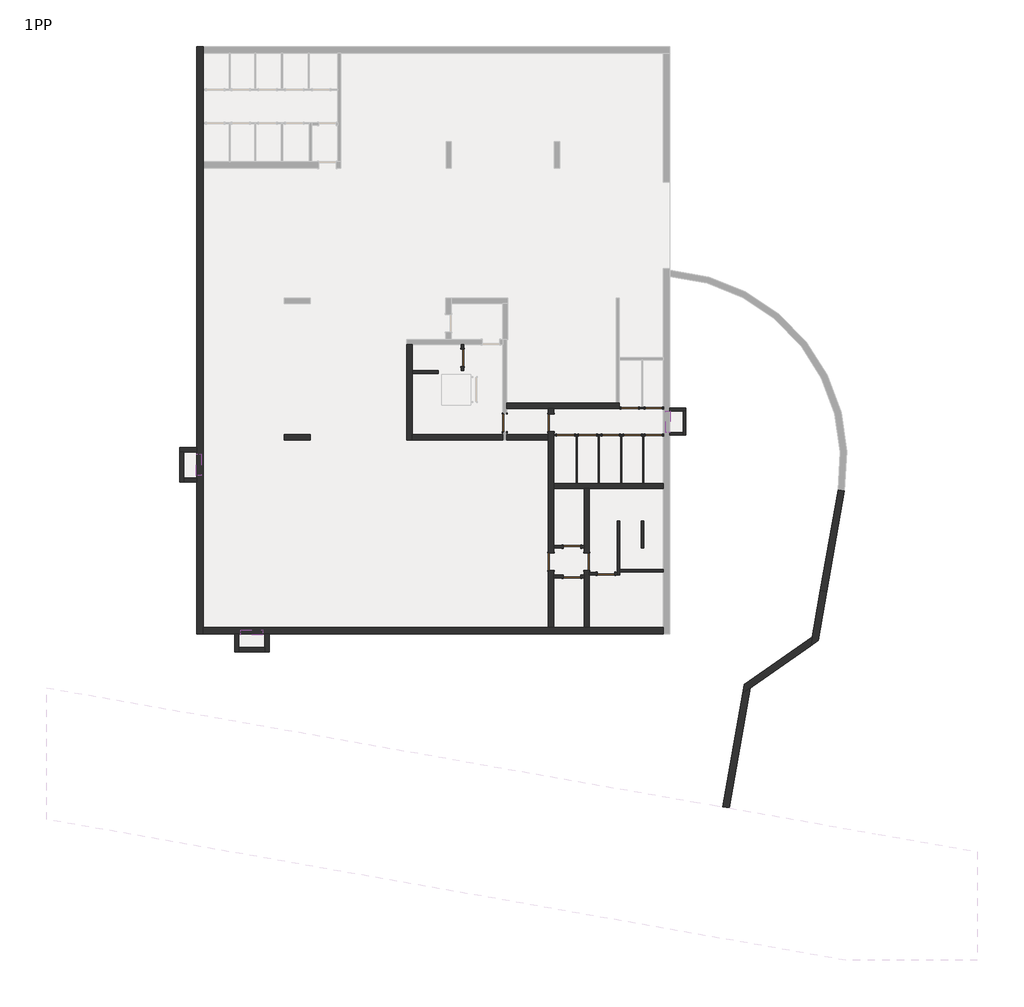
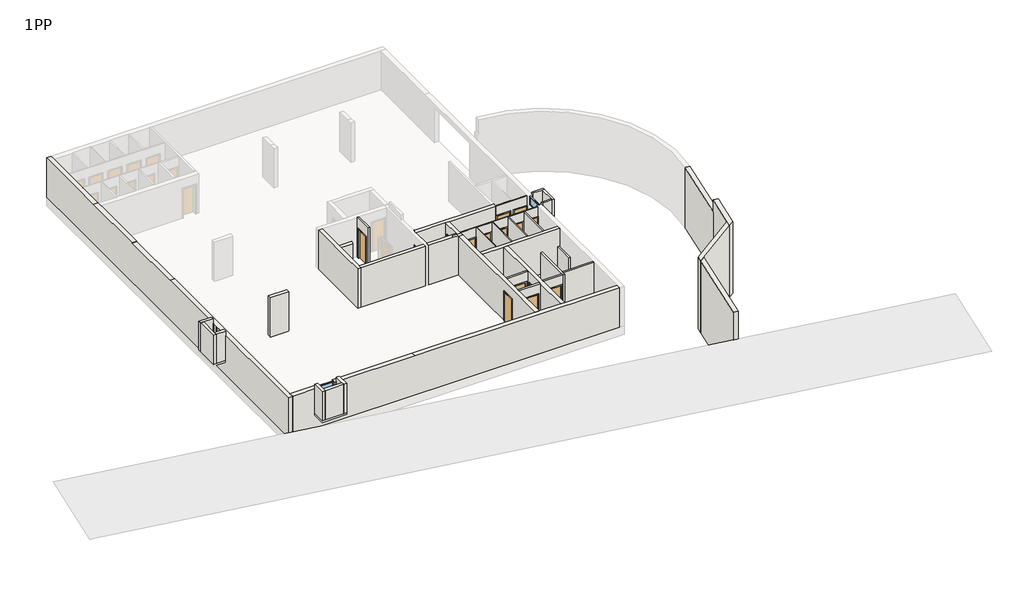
# One storey, part 1 of 2: 37 walls, 15 doors, 3 windows.
"""IFC4 building model written with IfcOpenShell, lengths in millimetres."""

from ifc_helpers import new_model, si_unit, frame, origin, place, context, project, spatial, polyline, outline, extrude, faceted_brep, transform, mapped, element, save
from components import sd_800x2000_0203fe2f, sd_800x2000_125e4961, sd_800x2000_3ea96131, sd_800x2000_59be3646, sd_800x2000_e6dfe1af, sd_800x2000_b5de6549, sd_800x2000_c4456082, window_043d948e, window_b9e24ea9

model = new_model("IFC4")

# Units and contexts
model_context = context("Model", 3, world=origin())
ifc_project = project(units=[si_unit("LENGTHUNIT", "METRE", prefix="MILLI")], contexts=[model_context])

# Site, building, storey
site = spatial("IfcSite", under=ifc_project)
building = spatial("IfcBuilding", under=site)
storey = spatial("IfcBuildingStorey", under=building, Name="1PP", Elevation=-3100.0)

# Doors
placement = place(None, origin())
sd_800x2000_shape = sd_800x2000_0203fe2f(model_context)
element("IfcDoor", 1, ObjectType="JednokridlePlne : SD 800x2000", at=placement, inside=storey, context=model_context, shape_type="MappedRepresentation", body=[
    mapped(sd_800x2000_shape, transform((5451.4088399, -7707.3709459, -3100.0), x_axis=(0.0, 0.9999999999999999, 0.0), y_axis=(-0.9999999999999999, 0.0, 0.0), z_axis=(0.0, 0.0, 1.0))),
])
sd_800x2000_2_shape = sd_800x2000_125e4961(model_context)
element("IfcDoor", 2, ObjectType="JednokridlePlne : SD 800x2000", at=placement, inside=storey, context=model_context, shape_type="MappedRepresentation", body=[
    mapped(sd_800x2000_2_shape, transform((4474.7387088, -1857.3709459, -3100.0), x_axis=(-1.0, 0.0, 0.0), y_axis=(0.0, -1.0, 0.0), z_axis=(0.0, 0.0, 1.0))),
])
element("IfcDoor", 3, ObjectType="JednokridlePlne : SD 800x2000", at=placement, inside=storey, context=model_context, shape_type="MappedRepresentation", body=[
    mapped(sd_800x2000_2_shape, transform((5492.9551797, -1857.3709459, -3100.0), x_axis=(-1.0, 0.0, 0.0), y_axis=(0.0, -1.0, 0.0), z_axis=(0.0, 0.0, 1.0))),
])
element("IfcDoor", 4, ObjectType="JednokridlePlne : SD 800x2000", at=placement, inside=storey, context=model_context, shape_type="MappedRepresentation", body=[
    mapped(sd_800x2000_2_shape, transform((6562.3417933, -1857.3709459, -3100.0), x_axis=(-1.0, 0.0, 0.0), y_axis=(0.0, -1.0, 0.0), z_axis=(0.0, 0.0, 1.0))),
])
element("IfcDoor", 5, ObjectType="JednokridlePlne : SD 800x2000", at=placement, inside=storey, context=model_context, shape_type="MappedRepresentation", body=[
    mapped(sd_800x2000_2_shape, transform((7572.2233412, -1857.3709459, -3100.0), x_axis=(-1.0, 0.0, 0.0), y_axis=(0.0, -1.0, 0.0), z_axis=(0.0, 0.0, 1.0))),
])
element("IfcDoor", 6, ObjectType="JednokridlePlne : SD 800x2000", at=placement, inside=storey, context=model_context, shape_type="MappedRepresentation", body=[
    mapped(sd_800x2000_2_shape, transform((8546.4088399, -1857.3709459, -3100.0), x_axis=(-1.0, 0.0, 0.0), y_axis=(0.0, -1.0, 0.0), z_axis=(0.0, 0.0, 1.0))),
])
sd_800x2000_3_shape = sd_800x2000_3ea96131(model_context)
element("IfcDoor", 7, ObjectType="JednokridlePlne : SD 800x2000", at=placement, inside=storey, context=model_context, shape_type="MappedRepresentation", body=[
    mapped(sd_800x2000_3_shape, transform((8546.4088399, -607.3709459, -3100.0), x_axis=(-0.9999999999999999, 0.0, 0.0), y_axis=(0.0, -0.9999999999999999, 0.0), z_axis=(0.0, 0.0, 1.0))),
])
element("IfcDoor", 8, ObjectType="JednokridlePlne : SD 800x2000", at=placement, inside=storey, context=model_context, shape_type="MappedRepresentation", body=[
    mapped(sd_800x2000_3_shape, transform((7438.078971, -607.3709459, -3100.0), x_axis=(-0.9999999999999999, 0.0, 0.0), y_axis=(0.0, -0.9999999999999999, 0.0), z_axis=(0.0, 0.0, 1.0))),
])
sd_800x2000_4_shape = sd_800x2000_59be3646(model_context)
element("IfcDoor", 9, ObjectType="JednokridlePlne : SD 800x2000", at=placement, inside=storey, context=model_context, shape_type="MappedRepresentation", body=[
    mapped(sd_800x2000_4_shape, transform((3801.4088399, -1292.8016415, -3100.0), x_axis=(0.0, 1.0, 0.0), y_axis=(-1.0, 0.0, 0.0), z_axis=(0.0, 0.0, 1.0))),
])
element("IfcDoor", 10, ObjectType="JednokridlePlne : SD 800x2000", at=placement, inside=storey, context=model_context, shape_type="MappedRepresentation", body=[
    mapped(sd_800x2000_4_shape, transform((3801.4088399, -7707.3709459, -3100.0), x_axis=(0.0, 1.0, 0.0), y_axis=(-1.0, 0.0, 0.0), z_axis=(0.0, 0.0, 1.0))),
])
sd_800x2000_5_shape = sd_800x2000_e6dfe1af(model_context)
element("IfcDoor", 11, ObjectType="JednokridlePlne : SD 800x2000", at=placement, inside=storey, context=model_context, shape_type="MappedRepresentation", body=[
    mapped(sd_800x2000_5_shape, transform((1662.8088399, -1292.8016415, -3100.0), x_axis=(0.0, 0.9999999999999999, 0.0), y_axis=(-0.9999999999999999, 0.0, 0.0), z_axis=(0.0, 0.0, 1.0))),
])
sd_800x2000_6_shape = sd_800x2000_b5de6549(model_context)
element("IfcDoor", 12, ObjectType="JednokridlePlne : SD 800x2000", at=placement, inside=storey, context=model_context, shape_type="MappedRepresentation", body=[
    mapped(sd_800x2000_6_shape, transform((4766.4088399, -8392.3709459, -3100.0), x_axis=(-1.0, 0.0, 0.0), y_axis=(0.0, -1.0, 0.0), z_axis=(0.0, 0.0, 1.0))),
])
element("IfcDoor", 13, ObjectType="JednokridlePlne : SD 800x2000", at=placement, inside=storey, context=model_context, shape_type="MappedRepresentation", body=[
    mapped(sd_800x2000_6_shape, transform((-297.1911601, 1717.6290541, -3100.0), x_axis=(0.0, -1.0, 0.0), y_axis=(1.0, 0.0, 0.0), z_axis=(0.0, 0.0, 1.0))),
])
sd_800x2000_7_shape = sd_800x2000_c4456082(model_context)
element("IfcDoor", 14, ObjectType="JednokridlePlne : SD 800x2000", at=placement, inside=storey, context=model_context, shape_type="MappedRepresentation", body=[
    mapped(sd_800x2000_7_shape, transform((4766.4088399, -7022.3709459, -3100.0), x_axis=(-1.0, 0.0, 0.0), y_axis=(0.0, -1.0, 0.0), z_axis=(0.0, 0.0, 1.0))),
])
element("IfcDoor", 15, ObjectType="JednokridlePlne : SD 800x2000", at=placement, inside=storey, context=model_context, shape_type="MappedRepresentation", body=[
    mapped(sd_800x2000_7_shape, transform((6336.4088399, -8272.3709459, -3100.0), x_axis=(1.0, 0.0, 0.0), y_axis=(0.0, 1.0, 0.0), z_axis=(0.0, 0.0, 1.0))),
])

# Walls
element("IfcWall", 16, ObjectType="Exterior - STB 200mm", at=placement, inside=storey, context=model_context, shape_type="Brep", body=[
    faceted_brep([(-10823.5911601, -11052.3709459, -2100.0), (-10823.5911601, -11872.3709459, -2100.0), (-10823.5911601, -11872.3709459, -91.0), (-10823.5911601, -11052.3709459, -91.0), (-10623.5911601, -11052.3709459, -2100.0), (-10623.5911601, -11052.3709459, -91.0), (-10623.5911601, -11672.3709459, -91.0), (-10623.5911601, -11872.3709459, -91.0), (-10623.5911601, -11872.3709459, -2100.0), (-10623.5911601, -11672.3709459, -2100.0)], [[[0, 1, 2, 3]], [[4, 5, 6, 7, 8, 9]], [[1, 0, 4, 9, 8]], [[2, 1, 8, 7]], [[0, 3, 5, 4]], [[3, 2, 7, 6, 5]]]),
])
element("IfcWall", 17, ObjectType="Exterior - STB 200mm", at=placement, inside=storey, context=model_context, shape_type="Brep", body=[
    faceted_brep([(-9223.5911601, -11872.3709459, -2100.0), (-9223.5911601, -11052.3709459, -2100.0), (-9223.5911601, -11052.3709459, -91.0), (-9223.5911601, -11872.3709459, -91.0), (-9423.5911601, -11872.3709459, -2100.0), (-9423.5911601, -11872.3709459, -91.0), (-9423.5911601, -11672.3709459, -91.0), (-9423.5911601, -11052.3709459, -91.0), (-9423.5911601, -11052.3709459, -2100.0), (-9423.5911601, -11672.3709459, -2100.0)], [[[0, 1, 2, 3]], [[4, 5, 6, 7, 8, 9]], [[1, 0, 4, 9, 8]], [[0, 3, 5, 4]], [[2, 1, 8, 7]], [[3, 2, 7, 6, 5]]]),
])
element("IfcWall", 18, ObjectType="Exterior - STB 200mm", at=placement, inside=storey, context=model_context, shape_type="SweptSolid", body=[
    extrude(outline(polyline([(-9423.5911601, -11872.3709459), (-10623.5911601, -11872.3709459), (-10623.5911601, -11672.3709459), (-9423.5911601, -11672.3709459), (-9423.5911601, -11872.3709459)])), frame((0.0, 0.0, -2100.0), z_axis=(0.0, 0.0, 1.0), x_axis=(1.0, 0.0, 0.0)), (0.0, 0.0, 1.0), 2009.0),
])
element("IfcWall", 19, ObjectType="Exterior - STB 200mm", at=placement, inside=storey, context=model_context, shape_type="Brep", body=[
    faceted_brep([(-12557.1911601, -2432.3709459, -2100.0), (-13363.5911601, -2432.3709459, -2100.0), (-13363.5911601, -2432.3709459, -91.0), (-12557.1911601, -2432.3709459, -91.0), (-12557.1911601, -2632.3709459, -2100.0), (-12557.1911601, -2632.3709459, -91.0), (-13163.5911601, -2632.3709459, -91.0), (-13363.5911601, -2632.3709459, -91.0), (-13363.5911601, -2632.3709459, -2100.0), (-13163.5911601, -2632.3709459, -2100.0)], [[[0, 1, 2, 3]], [[4, 5, 6, 7, 8, 9]], [[1, 0, 4, 9, 8]], [[2, 1, 8, 7]], [[0, 3, 5, 4]], [[3, 2, 7, 6, 5]]]),
])
element("IfcWall", 20, ObjectType="Exterior - STB 200mm", at=placement, inside=storey, context=model_context, shape_type="Brep", body=[
    faceted_brep([(-13363.5911601, -2632.3709459, -2100.0), (-13363.5911601, -4032.3709459, -2100.0), (-13363.5911601, -4032.3709459, -91.0), (-13363.5911601, -2632.3709459, -91.0), (-13163.5911601, -2632.3709459, -2100.0), (-13163.5911601, -2632.3709459, -91.0), (-13163.5911601, -3832.3709459, -91.0), (-13163.5911601, -4032.3709459, -91.0), (-13163.5911601, -4032.3709459, -2100.0), (-13163.5911601, -3832.3709459, -2100.0)], [[[0, 1, 2, 3]], [[4, 5, 6, 7, 8, 9]], [[1, 0, 4, 9, 8]], [[2, 1, 8, 7]], [[0, 3, 5, 4]], [[3, 2, 7, 6, 5]]]),
])
element("IfcWall", 21, ObjectType="Exterior - STB 200mm", at=placement, inside=storey, context=model_context, shape_type="SweptSolid", body=[
    extrude(outline(polyline([(-12557.1911601, -4032.3709459), (-13163.5911601, -4032.3709459), (-13163.5911601, -3832.3709459), (-12557.1911601, -3832.3709459), (-12557.1911601, -4032.3709459)])), frame((0.0, 0.0, -2100.0), z_axis=(0.0, 0.0, 1.0), x_axis=(1.0, 0.0, 0.0)), (0.0, 0.0, 1.0), 2009.0),
])
element("IfcWall", 22, ObjectType="Exterior - STB 300mm", at=placement, inside=storey, context=model_context, shape_type="Brep", body=[
    faceted_brep([(-12257.1911601, -11052.3709459, -3100.0), (-12257.1911601, -10752.3709459, -3100.0), (-12257.1911601, 10487.6290541, -3100.0), (-12257.1911601, 10787.6290541, -3100.0), (-12257.1911601, 12542.6290541, -3100.0), (-12257.1911601, 12592.6290541, -3100.0), (-12257.1911601, 15807.6290541, -3100.0), (-12257.1911601, 16107.6290541, -3100.0), (-12257.1911601, 16107.6290541, -409.0), (-12257.1911601, 16107.6290541, -400.0), (-12257.1911601, 10867.6290541, -400.0), (-12257.1911601, 10787.6290541, -400.0), (-12257.1911601, 10487.6290541, -400.0), (-12257.1911601, 6467.6290541, -400.0), (-12257.1911601, 6467.6290541, -409.0), (-12257.1911601, 2217.6290541, -409.0), (-12257.1911601, 2217.6290541, -400.0), (-12257.1911601, -2132.3709459, -400.0), (-12257.1911601, -10752.3709459, -400.0), (-12257.1911601, -11052.3709459, -400.0), (-12257.1911601, -3732.3709459, -1409.0), (-12257.1911601, -3732.3709459, -409.0), (-12257.1911601, -2732.3709459, -409.0), (-12257.1911601, -2732.3709459, -1409.0), (-12557.1911601, 16107.6290541, -3100.0), (-12557.1911601, -11052.3709459, -3100.0), (-12557.1911601, -11052.3709459, -400.0), (-12557.1911601, -2132.3709459, -400.0), (-12557.1911601, 2217.6290541, -400.0), (-12557.1911601, 2217.6290541, -409.0), (-12557.1911601, 6467.6290541, -409.0), (-12557.1911601, 6467.6290541, -400.0), (-12557.1911601, 10867.6290541, -400.0), (-12557.1911601, 16107.6290541, -400.0), (-12557.1911601, -3732.3709459, -409.0), (-12557.1911601, -3732.3709459, -1409.0), (-12557.1911601, -2732.3709459, -1409.0), (-12557.1911601, -2732.3709459, -409.0)], [[[0, 1, 2, 3, 4, 5, 6, 7, 8, 9, 10, 11, 12, 13, 14, 15, 16, 17, 18, 19], [20, 21, 22, 23]], [[24, 25, 26, 27, 28, 29, 30, 31, 32, 33], [34, 35, 36, 37]], [[7, 6, 5, 4, 3, 2, 1, 0, 25, 24]], [[9, 8, 7, 24, 33]], [[0, 19, 26, 25]], [[26, 19, 18, 17, 27]], [[9, 33, 32, 10]], [[13, 12, 11, 10, 32, 31]], [[17, 16, 28, 27]], [[21, 20, 35, 34]], [[22, 21, 34, 37]], [[23, 22, 37, 36]], [[20, 23, 36, 35]], [[29, 15, 14, 30]], [[30, 14, 13, 31]], [[15, 29, 28, 16]]]),
])
element("IfcWall", 23, ObjectType="Exterior - STB 300mm", at=placement, inside=storey, context=model_context, shape_type="Brep", body=[
    faceted_brep([(8982.8088399, -10752.3709459, -3100.0), (5576.4088399, -10752.3709459, -3100.0), (5326.4088399, -10752.3709459, -3100.0), (3926.4088399, -10752.3709459, -3100.0), (3676.4088399, -10752.3709459, -3100.0), (-12257.1911601, -10752.3709459, -3100.0), (-12257.1911601, -10752.3709459, -400.0), (-10523.5911601, -10752.3709459, -400.0), (-10523.5911601, -10752.3709459, -1400.0), (-9523.5911601, -10752.3709459, -1400.0), (-9523.5911601, -10752.3709459, -400.0), (-4337.1962165, -10752.3709459, -400.0), (3676.4088399, -10752.3709459, -400.0), (3926.4088399, -10752.3709459, -400.0), (5326.4088399, -10752.3709459, -400.0), (5576.4088399, -10752.3709459, -400.0), (8982.8088399, -10752.3709459, -400.0), (-12257.1911601, -11052.3709459, -3100.0), (8982.8088399, -11052.3709459, -3100.0), (8982.8088399, -11052.3709459, -400.0), (-4337.1962165, -11052.3709459, -400.0), (-9523.5911601, -11052.3709459, -400.0), (-9523.5911601, -11052.3709459, -1400.0), (-10523.5911601, -11052.3709459, -1400.0), (-10523.5911601, -11052.3709459, -400.0), (-12257.1911601, -11052.3709459, -400.0)], [[[0, 1, 2, 3, 4, 5, 6, 7, 8, 9, 10, 11, 12, 13, 14, 15, 16]], [[17, 18, 19, 20, 21, 22, 23, 24, 25]], [[5, 4, 3, 2, 1, 0, 18, 17]], [[0, 16, 19, 18]], [[6, 5, 17, 25]], [[6, 25, 24, 7]], [[20, 11, 10, 21]], [[16, 15, 14, 13, 12, 11, 20, 19]], [[9, 22, 21, 10]], [[23, 8, 7, 24]], [[22, 9, 8, 23]]]),
])
element("IfcWall", 24, ObjectType="Exterior - STB 300mm", at=placement, inside=storey, context=model_context, shape_type="Brep", body=[
    faceted_brep([(17064.3928143, -4387.7782943, -3100.0), (16245.3632549, -9032.7257446, -3100.0), (16245.3632549, -9032.7257446, 1000.0), (16262.7280726, -8934.2449693, 1000.0), (17064.3928143, -4387.7782943, 1000.0), (17360.0752435, -4438.5110541, -3100.0), (17360.0752435, -4438.5110541, 1000.0), (16558.1703985, -8986.3394226, 1000.0), (16540.8055808, -9084.8201979, 1000.0), (16540.8055808, -9084.8201979, -3100.0)], [[[0, 1, 2, 3, 4]], [[5, 6, 7, 8, 9]], [[1, 0, 5, 9]], [[4, 3, 2, 8, 7, 6]], [[0, 4, 6, 5]], [[1, 9, 8, 2]]]),
])
element("IfcWall", 25, ObjectType="Exterior - STB 300mm", at=placement, inside=storey, context=model_context, shape_type="Brep", body=[
    faceted_brep([(12664.6339226, -13791.370603, -3100.0), (13012.1707018, -13548.0227304, -3100.0), (15792.4649355, -11601.2397495, -3100.0), (15792.4649355, -11601.2397495, 1800.0), (13012.1707018, -13548.0227304, 1800.0), (12664.6339226, -13791.370603, 1800.0), (12738.306605, -13373.5520588, -3100.0), (12738.306605, -13373.5520588, 1800.0), (15866.1376178, -11183.4212053, 1800.0), (15866.1376178, -11183.4212053, -3100.0)], [[[0, 1, 2, 3, 4, 5]], [[6, 7, 8, 9]], [[2, 1, 0, 6, 9]], [[5, 4, 3, 8, 7]], [[0, 5, 7, 6]], [[3, 2, 9, 8]]]),
])
element("IfcWall", 26, ObjectType="Exterior - STB 300mm", at=placement, inside=storey, context=model_context, shape_type="SweptSolid", body=[
    extrude(outline(polyline([(13012.1707018, -13548.0227304), (12034.293416, -19093.8404034), (11738.8510901, -19041.7459501), (12664.6339226, -13791.370603), (13012.1707018, -13548.0227304)])), frame((0.0, 0.0, -3100.0), z_axis=(0.0, 0.0, 1.0), x_axis=(1.0, 0.0, 0.0)), (0.0, 0.0, 1.0), 4900.0),
])
element("IfcWall", 27, ObjectType="Exterior - STB 300mm", at=placement, inside=storey, context=model_context, shape_type="Brep", body=[
    faceted_brep([(16245.3632549, -9032.7257446, 1000.0), (16245.3632549, -9032.7257446, -3100.0), (15866.1376178, -11183.4212053, -3100.0), (15792.4649355, -11601.2397495, -3100.0), (15792.4649355, -11601.2397495, 1800.0), (15866.1376178, -11183.4212053, 1800.0), (16227.9984371, -9131.2065199, 1800.0), (16262.7280726, -8934.2449693, 1800.0), (16262.7280726, -8934.2449693, 1000.0), (16540.8055808, -9084.8201979, -3100.0), (16540.8055808, -9084.8201979, 1000.0), (16558.1703985, -8986.3394226, 1000.0), (16558.1703985, -8986.3394226, 1800.0), (16140.0017147, -11357.8918769, 1800.0), (16140.0017147, -11357.8918769, -3100.0)], [[[0, 1, 2, 3, 4, 5, 6, 7, 8]], [[9, 10, 11, 12, 13, 14]], [[3, 2, 1, 9, 14]], [[7, 6, 5, 4, 13, 12]], [[4, 3, 14, 13]], [[0, 10, 9, 1]], [[8, 11, 10, 0]], [[8, 7, 12, 11]]]),
])
element("IfcWall", 28, ObjectType="Exterior - STB120mm", at=placement, inside=storey, context=model_context, shape_type="Brep", body=[
    faceted_brep([(9282.8088399, -732.3709482, -2100.0), (9916.4088399, -732.3709459, -2100.0), (10036.4088399, -732.3709455, -2100.0), (10036.4088399, -732.3709455, -270.0), (9916.4088399, -732.3709459, -270.0), (9362.8037835, -732.370948, -270.0), (9282.8088399, -732.3709482, -270.0), (9282.8088399, -732.3709482, -400.0), (9282.8088399, -732.3709482, -1000.0), (9282.8088399, -612.3709482, -2100.0), (9282.8088399, -612.3709482, -270.0), (9362.8037835, -612.370948, -270.0), (10036.4088399, -612.3709455, -270.0), (10036.4088399, -612.3709455, -2100.0)], [[[0, 1, 2, 3, 4, 5, 6, 7, 8]], [[9, 10, 11, 12, 13]], [[2, 1, 0, 9, 13]], [[3, 2, 13, 12]], [[0, 8, 7, 6, 10, 9]], [[6, 5, 11, 10]], [[5, 4, 3, 12, 11]]]),
])
element("IfcWall", 29, ObjectType="Exterior - STB120mm", at=placement, inside=storey, context=model_context, shape_type="Brep", body=[
    faceted_brep([(9916.4088399, -732.3709459, -2100.0), (9916.4088399, -1732.3709459, -2100.0), (9916.4088399, -1852.3709459, -2100.0), (9916.4088399, -1852.3709459, -270.0), (9916.4088399, -1732.3709459, -270.0), (9916.4088399, -732.3709459, -270.0), (10036.4088399, -732.3709455, -2100.0), (10036.4088399, -732.3709455, -270.0), (10036.4088399, -1852.3709459, -270.0), (10036.4088399, -1852.3709459, -2100.0)], [[[0, 1, 2, 3, 4, 5]], [[6, 7, 8, 9]], [[2, 1, 0, 6, 9]], [[3, 2, 9, 8]], [[0, 5, 7, 6]], [[5, 4, 3, 8, 7]]]),
])
element("IfcWall", 30, ObjectType="Exterior - STB120mm", at=placement, inside=storey, context=model_context, shape_type="Brep", body=[
    faceted_brep([(9916.4088399, -1732.3709459, -2100.0), (9282.8088399, -1732.3709459, -2100.0), (9282.8088399, -1732.3709459, -1000.0), (9282.8088399, -1732.3709459, -400.0), (9282.8088399, -1732.3709459, -270.0), (9362.8037835, -1732.3709459, -270.0), (9916.4088399, -1732.3709459, -270.0), (9916.4088399, -1852.3709459, -2100.0), (9916.4088399, -1852.3709459, -270.0), (9362.8037835, -1852.3709459, -270.0), (9282.8088399, -1852.3709459, -270.0), (9282.8088399, -1852.3709459, -2100.0)], [[[0, 1, 2, 3, 4, 5, 6]], [[7, 8, 9, 10, 11]], [[1, 0, 7, 11]], [[0, 6, 8, 7]], [[4, 3, 2, 1, 11, 10]], [[5, 4, 10, 9]], [[6, 5, 9, 8]]]),
])
element("IfcWall", 31, ObjectType="Interior - 100mm", at=placement, inside=storey, context=model_context, shape_type="SweptSolid", body=[
    extrude(outline(polyline([(7976.4088399, -7062.3709459), (7976.4088399, -5832.3709459), (8076.4088399, -5832.3709459), (8076.4088399, -7062.3709459), (7976.4088399, -7062.3709459)])), frame((0.0, 0.0, -3100.0), z_axis=(0.0, 0.0, 1.0), x_axis=(1.0, 0.0, 0.0)), (0.0, 0.0, 1.0), 2700.0),
])
element("IfcWall", 32, ObjectType="Interior - 120mm", at=placement, inside=storey, context=model_context, shape_type="SweptSolid", body=[
    extrude(outline(polyline([(-3100.0, 3926.4088399), (-3100.0, 4366.4088399), (-1100.0, 4366.4088399), (-1100.0, 5166.4088399), (-3100.0, 5166.4088399), (-3100.0, 5326.4088399), (-400.0, 5326.4088399), (-400.0, 3926.4088399), (-3100.0, 3926.4088399)])), frame((0.0, -8452.3709459, 0.0), z_axis=(0.0, 1.0, 0.0), x_axis=(0.0, 0.0, 1.0)), (0.0, 0.0, 1.0), 120.0),
])
element("IfcWall", 33, ObjectType="Interior - 120mm", at=placement, inside=storey, context=model_context, shape_type="SweptSolid", body=[
    extrude(outline(polyline([(-3100.0, 3926.4088399), (-3100.0, 4366.4088399), (-1100.0, 4366.4088399), (-1100.0, 5166.4088399), (-3100.0, 5166.4088399), (-3100.0, 5326.4088399), (-400.0, 5326.4088399), (-400.0, 3926.4088399), (-3100.0, 3926.4088399)])), frame((0.0, -7082.3709459, 0.0), z_axis=(0.0, 1.0, 0.0), x_axis=(0.0, 0.0, 1.0)), (0.0, 0.0, 1.0), 120.0),
])
element("IfcWall", 34, ObjectType="Interior - 120mm", at=placement, inside=storey, context=model_context, shape_type="SweptSolid", body=[
    extrude(outline(polyline([(6976.4088399, -8062.3709459), (8982.8088399, -8062.3709459), (8982.8088399, -8182.3709459), (6976.4088399, -8182.3709459), (6976.4088399, -8062.3709459)])), frame((0.0, 0.0, -3100.0), z_axis=(0.0, 0.0, 1.0), x_axis=(1.0, 0.0, 0.0)), (0.0, 0.0, 1.0), 2700.0),
])
element("IfcWall", 35, ObjectType="Interior - 120mm", at=placement, inside=storey, context=model_context, shape_type="Brep", body=[
    faceted_brep([(6976.4088399, -8332.3709459, -3100.0), (6976.4088399, -8182.3709459, -3100.0), (6976.4088399, -8062.3709459, -3100.0), (6976.4088399, -5832.3709459, -3100.0), (6976.4088399, -5832.3709459, -400.0), (6976.4088399, -8052.3709459, -400.0), (6976.4088399, -8062.3709459, -400.0), (6976.4088399, -8182.3709459, -400.0), (6976.4088399, -8332.3709459, -400.0), (6856.4088399, -8332.3709459, -3100.0), (6856.4088399, -8332.3709459, -400.0), (6856.4088399, -8212.3709459, -400.0), (6856.4088399, -5832.3709459, -400.0), (6856.4088399, -5832.3709459, -3100.0), (6856.4088399, -8212.3709459, -3100.0)], [[[0, 1, 2, 3, 4, 5, 6, 7, 8]], [[9, 10, 11, 12, 13, 14]], [[3, 2, 1, 0, 9, 14, 13]], [[4, 3, 13, 12]], [[0, 8, 10, 9]], [[8, 7, 6, 5, 4, 12, 11, 10]]]),
])
element("IfcWall", 36, ObjectType="Interior - 120mm", at=placement, inside=storey, context=model_context, shape_type="SweptSolid", body=[
    extrude(outline(polyline([(-1100.0, 6736.4088399), (-3100.0, 6736.4088399), (-3100.0, 6856.4088399), (-400.0, 6856.4088399), (-400.0, 5576.4088399), (-3100.0, 5576.4088399), (-3100.0, 5936.4088399), (-1100.0, 5936.4088399), (-1100.0, 6736.4088399)])), frame((0.0, -8332.3709459, 0.0), z_axis=(0.0, 1.0, 0.0), x_axis=(0.0, 0.0, 1.0)), (0.0, 0.0, 1.0), 120.0),
])
element("IfcWall", 37, ObjectType="Interior - 120mm", at=placement, inside=storey, context=model_context, shape_type="SweptSolid", body=[
    extrude(outline(polyline([(1117.6290541, -955.5709175), (1117.6290541, -3100.0), (997.6290541, -3100.0), (997.6290541, -1031.2928427), (1117.6290541, -955.5709175)])), frame((-2607.1911601, 0.0, 0.0), z_axis=(1.0, 0.0, 0.0), x_axis=(0.0, 1.0, 0.0)), (0.0, 0.0, 1.0), 1199.9949436),
])
element("IfcWall", 38, ObjectType="Interior - 120mm", at=placement, inside=storey, context=model_context, shape_type="SweptSolid", body=[
    extrude(outline(polyline([(1317.6290541, -1100.0), (1317.6290541, -3100.0), (1117.6290541, -3100.0), (1117.6290541, -400.0), (2317.6290541, -400.0), (2317.6290541, -3100.0), (2117.6290541, -3100.0), (2117.6290541, -1100.0), (1317.6290541, -1100.0)])), frame((-357.1911601, 0.0, 0.0), z_axis=(1.0, 0.0, 0.0), x_axis=(0.0, 1.0, 0.0)), (0.0, 0.0, 1.0), 120.0),
])
element("IfcWall", 39, ObjectType="Interior - 250mm", at=placement, inside=storey, context=model_context, shape_type="Brep", body=[
    faceted_brep([(-2607.1911601, -2082.3709459, -3100.0), (-2607.1911601, -1832.3709459, -3100.0), (-2607.1911601, 997.6290541, -3100.0), (-2607.1911601, 1117.6290541, -3100.0), (-2607.1911601, 2317.6290541, -3100.0), (-2607.1911601, 2317.6290541, -400.0), (-2607.1911601, -1832.3709459, -400.0), (-2607.1911601, -2082.3709459, -400.0), (-2857.1911601, -2082.3709459, -3100.0), (-2857.1911601, -2082.3709459, -400.0), (-2857.1911601, -732.3709459, -400.0), (-2857.1911601, 267.6290541, -400.0), (-2857.1911601, 2317.6290541, -400.0), (-2857.1911601, 2317.6290541, -3100.0)], [[[0, 1, 2, 3, 4, 5, 6, 7]], [[8, 9, 10, 11, 12, 13]], [[4, 3, 2, 1, 0, 8, 13]], [[0, 7, 9, 8]], [[5, 4, 13, 12]], [[7, 6, 5, 12, 11, 10, 9]]]),
])
element("IfcWall", 40, ObjectType="Interior - 250mm", at=placement, inside=storey, context=model_context, shape_type="Brep", body=[
    faceted_brep([(1562.8088399, -1832.3709459, -3100.0), (-2607.1911601, -1832.3709459, -3100.0), (-2607.1911601, -1832.3709459, -400.0), (362.8037835, -1832.3709459, -400.0), (1562.8088399, -1832.3709459, -400.0), (1562.8088399, -2082.3709459, -3100.0), (1562.8088399, -2082.3709459, -400.0), (592.8037835, -2082.3709459, -400.0), (-886.4381272, -2082.3709459, -400.0), (-2607.1911601, -2082.3709459, -400.0), (-2607.1911601, -2082.3709459, -3100.0)], [[[0, 1, 2, 3, 4]], [[5, 6, 7, 8, 9, 10]], [[1, 0, 5, 10]], [[2, 1, 10, 9]], [[0, 4, 6, 5]], [[4, 3, 2, 9, 8, 7, 6]]]),
])
element("IfcWall", 41, ObjectType="Interior - 250mm", at=placement, inside=storey, context=model_context, shape_type="Brep", body=[
    faceted_brep([(1762.8088399, -632.3709459, -3100.0), (3676.4088399, -632.3709459, -3100.0), (3926.4088399, -632.3709459, -3100.0), (6946.4088399, -632.3709459, -3100.0), (6946.4088399, -632.3709459, -400.0), (3926.4088399, -632.3709459, -400.0), (3676.4088399, -632.3709459, -400.0), (1762.8088399, -632.3709459, -400.0), (1762.8088399, -382.3709459, -3100.0), (1762.8088399, -382.3709459, -400.0), (2012.8037835, -382.3709459, -400.0), (6826.4088399, -382.3709459, -400.0), (6946.4088399, -382.3709459, -400.0), (6946.4088399, -382.3709459, -3100.0), (6826.4088399, -382.3709459, -3100.0), (6946.4088399, -582.3709459, -3100.0), (6946.4088399, -582.3709459, -400.0)], [[[0, 1, 2, 3, 4, 5, 6, 7]], [[8, 9, 10, 11, 12, 13, 14]], [[3, 2, 1, 0, 8, 14, 13, 15]], [[4, 3, 15, 13, 12, 16]], [[0, 7, 9, 8]], [[7, 6, 5, 4, 16, 12, 11, 10, 9]]]),
])
element("IfcWall", 42, ObjectType="Interior - 250mm", at=placement, inside=storey, context=model_context, shape_type="Brep", body=[
    faceted_brep([(3676.4088399, -1692.8016415, -3100.0), (3676.4088399, -1832.3709459, -3100.0), (3676.4088399, -2082.3709459, -3100.0), (3676.4088399, -7307.3709459, -3100.0), (3676.4088399, -7307.3709459, -1100.0), (3676.4088399, -8107.3709459, -1100.0), (3676.4088399, -8107.3709459, -3100.0), (3676.4088399, -10752.3709459, -3100.0), (3676.4088399, -10752.3709459, -400.0), (3676.4088399, -2132.3709459, -400.0), (3676.4088399, -2082.3709459, -400.0), (3676.4088399, -1932.3709459, -400.0), (3676.4088399, -1832.3709459, -400.0), (3676.4088399, -632.3709459, -400.0), (3676.4088399, -632.3709459, -3100.0), (3676.4088399, -892.8016415, -3100.0), (3676.4088399, -892.8016415, -1100.0), (3676.4088399, -1692.8016415, -1100.0), (3926.4088399, -7307.3709459, -1100.0), (3926.4088399, -7307.3709459, -3100.0), (3926.4088399, -7082.3709459, -3100.0), (3926.4088399, -6962.3709459, -3100.0), (3926.4088399, -4332.3709459, -3100.0), (3926.4088399, -4082.3709459, -3100.0), (3926.4088399, -1882.3709459, -3100.0), (3926.4088399, -1832.3709459, -3100.0), (3926.4088399, -1692.8016415, -3100.0), (3926.4088399, -1692.8016415, -1100.0), (3926.4088399, -892.8016415, -1100.0), (3926.4088399, -892.8016415, -3100.0), (3926.4088399, -632.3709459, -3100.0), (3926.4088399, -632.3709459, -400.0), (3926.4088399, -1832.3709459, -400.0), (3926.4088399, -1882.3709459, -400.0), (3926.4088399, -1932.3709459, -400.0), (3926.4088399, -2132.3709459, -400.0), (3926.4088399, -4082.3709459, -400.0), (3926.4088399, -4332.3709459, -400.0), (3926.4088399, -6962.3709459, -400.0), (3926.4088399, -7082.3709459, -400.0), (3926.4088399, -8332.3709459, -400.0), (3926.4088399, -8452.3709459, -400.0), (3926.4088399, -10752.3709459, -400.0), (3926.4088399, -10752.3709459, -3100.0), (3926.4088399, -8452.3709459, -3100.0), (3926.4088399, -8332.3709459, -3100.0), (3926.4088399, -8107.3709459, -3100.0), (3926.4088399, -8107.3709459, -1100.0)], [[[0, 1, 2, 3, 4, 5, 6, 7, 8, 9, 10, 11, 12, 13, 14, 15, 16, 17]], [[18, 19, 20, 21, 22, 23, 24, 25, 26, 27, 28, 29, 30, 31, 32, 33, 34, 35, 36, 37, 38, 39, 40, 41, 42, 43, 44, 45, 46, 47]], [[30, 29, 15, 14]], [[26, 25, 24, 23, 22, 21, 20, 19, 3, 2, 1, 0]], [[46, 45, 44, 43, 7, 6]], [[8, 7, 43, 42]], [[14, 13, 31, 30]], [[11, 10, 9, 35, 34]], [[13, 12, 11, 34, 33, 32, 31]], [[9, 8, 42, 41, 40, 39, 38, 37, 36, 35]], [[16, 15, 29, 28]], [[17, 16, 28, 27]], [[0, 17, 27, 26]], [[4, 3, 19, 18]], [[5, 4, 18, 47]], [[6, 5, 47, 46]]]),
])
element("IfcWall", 43, ObjectType="Interior - 250mm", at=placement, inside=storey, context=model_context, shape_type="Brep", body=[
    faceted_brep([(3926.4088399, -4332.3709459, -3100.0), (5326.4088399, -4332.3709459, -3100.0), (5576.4088399, -4332.3709459, -3100.0), (8982.8088399, -4332.3709459, -3100.0), (8982.8088399, -4332.3709459, -400.0), (5576.4088399, -4332.3709459, -400.0), (5326.4088399, -4332.3709459, -400.0), (3926.4088399, -4332.3709459, -400.0), (3926.4088399, -4082.3709459, -3100.0), (3926.4088399, -4082.3709459, -400.0), (4956.4088399, -4082.3709459, -400.0), (5006.4088399, -4082.3709459, -400.0), (5986.4088399, -4082.3709459, -400.0), (6036.4088399, -4082.3709459, -400.0), (7016.4088399, -4082.3709459, -400.0), (7066.4088399, -4082.3709459, -400.0), (8046.4088399, -4082.3709459, -400.0), (8096.4088399, -4082.3709459, -400.0), (8982.8088399, -4082.3709459, -400.0), (8982.8088399, -4082.3709459, -3100.0), (8096.4088399, -4082.3709459, -3100.0), (8046.4088399, -4082.3709459, -3100.0), (7066.4088399, -4082.3709459, -3100.0), (7016.4088399, -4082.3709459, -3100.0), (6036.4088399, -4082.3709459, -3100.0), (5986.4088399, -4082.3709459, -3100.0), (5006.4088399, -4082.3709459, -3100.0), (4956.4088399, -4082.3709459, -3100.0)], [[[0, 1, 2, 3, 4, 5, 6, 7]], [[8, 9, 10, 11, 12, 13, 14, 15, 16, 17, 18, 19, 20, 21, 22, 23, 24, 25, 26, 27]], [[3, 2, 1, 0, 8, 27, 26, 25, 24, 23, 22, 21, 20, 19]], [[4, 3, 19, 18]], [[0, 7, 9, 8]], [[7, 6, 5, 4, 18, 17, 16, 15, 14, 13, 12, 11, 10, 9]]]),
])
element("IfcWall", 44, ObjectType="Interior - 250mm", at=placement, inside=storey, context=model_context, shape_type="Brep", body=[
    faceted_brep([(5326.4088399, -4332.3709459, -3100.0), (5326.4088399, -6962.3709459, -3100.0), (5326.4088399, -7082.3709459, -3100.0), (5326.4088399, -7307.3709459, -3100.0), (5326.4088399, -7307.3709459, -1100.0), (5326.4088399, -8107.3709459, -1100.0), (5326.4088399, -8107.3709459, -3100.0), (5326.4088399, -8332.3709459, -3100.0), (5326.4088399, -8452.3709459, -3100.0), (5326.4088399, -10752.3709459, -3100.0), (5326.4088399, -10752.3709459, -400.0), (5326.4088399, -8452.3709459, -400.0), (5326.4088399, -8332.3709459, -400.0), (5326.4088399, -7082.3709459, -400.0), (5326.4088399, -6962.3709459, -400.0), (5326.4088399, -4332.3709459, -400.0), (5576.4088399, -7307.3709459, -1100.0), (5576.4088399, -7307.3709459, -3100.0), (5576.4088399, -4332.3709459, -3100.0), (5576.4088399, -4332.3709459, -400.0), (5576.4088399, -8212.3709459, -400.0), (5576.4088399, -8332.3709459, -400.0), (5576.4088399, -10752.3709459, -400.0), (5576.4088399, -10752.3709459, -3100.0), (5576.4088399, -8332.3709459, -3100.0), (5576.4088399, -8212.3709459, -3100.0), (5576.4088399, -8107.3709459, -3100.0), (5576.4088399, -8107.3709459, -1100.0)], [[[0, 1, 2, 3, 4, 5, 6, 7, 8, 9, 10, 11, 12, 13, 14, 15]], [[16, 17, 18, 19, 20, 21, 22, 23, 24, 25, 26, 27]], [[18, 17, 3, 2, 1, 0]], [[26, 25, 24, 23, 9, 8, 7, 6]], [[10, 9, 23, 22]], [[0, 15, 19, 18]], [[15, 14, 13, 12, 11, 10, 22, 21, 20, 19]], [[4, 3, 17, 16]], [[5, 4, 16, 27]], [[6, 5, 27, 26]]]),
])
element("IfcWall", 45, ObjectType="Interior - 250mm", at=placement, inside=storey, context=model_context, shape_type="Brep", body=[
    faceted_brep([(1762.8088399, -2082.3709459, -3100.0), (3676.4088399, -2082.3709459, -3100.0), (3676.4088399, -2082.3709459, -400.0), (3362.8037835, -2082.3709459, -400.0), (1762.8088399, -2082.3709459, -400.0), (1762.8088399, -1832.3709459, -3100.0), (1762.8088399, -1832.3709459, -400.0), (3676.4088399, -1832.3709459, -400.0), (3676.4088399, -1832.3709459, -3100.0), (1762.8088399, -1932.3709459, -400.0), (3676.4088399, -1932.3709459, -400.0), (3362.8037835, -1932.3709459, -400.0)], [[[0, 1, 2, 3, 4]], [[5, 6, 7, 8]], [[1, 0, 5, 8]], [[0, 4, 9, 6, 5]], [[2, 1, 8, 7, 10]], [[3, 2, 10, 11]], [[10, 7, 6, 9, 4, 3, 11]]]),
])
element("IfcWall", 46, ObjectType="Interior - 250mm", at=placement, inside=storey, context=model_context, shape_type="SweptSolid", body=[
    extrude(outline(polyline([(-8523.5911601, -1832.3709459), (-7323.5911601, -1832.3709459), (-7323.5911601, -2082.3709459), (-8523.5911601, -2082.3709459), (-8523.5911601, -1832.3709459)])), frame((0.0, 0.0, -3100.0), z_axis=(0.0, 0.0, 1.0), x_axis=(1.0, 0.0, 0.0)), (0.0, 0.0, 1.0), 2700.0),
])
element("IfcWall", 47, ObjectType="Interior - 500mm", at=placement, inside=storey, context=model_context, shape_type="Brep", body=[
    faceted_brep([(8982.8088399, -1882.3709459, -3100.0), (8982.8088399, -1882.3709459, -400.0), (8096.4088399, -1882.3709459, -400.0), (8046.4088399, -1882.3709459, -400.0), (7066.4088399, -1882.3709459, -400.0), (7016.4088399, -1882.3709459, -400.0), (6036.4088399, -1882.3709459, -400.0), (5986.4088399, -1882.3709459, -400.0), (5006.4088399, -1882.3709459, -400.0), (4956.4088399, -1882.3709459, -400.0), (3926.4088399, -1882.3709459, -400.0), (3926.4088399, -1882.3709459, -3100.0), (4074.7387088, -1882.3709459, -3100.0), (4074.7387088, -1882.3709459, -1100.0), (4874.7387088, -1882.3709459, -1100.0), (4874.7387088, -1882.3709459, -3100.0), (4956.4088399, -1882.3709459, -3100.0), (5006.4088399, -1882.3709459, -3100.0), (5092.9551797, -1882.3709459, -3100.0), (5092.9551797, -1882.3709459, -1100.0), (5892.9551797, -1882.3709459, -1100.0), (5892.9551797, -1882.3709459, -3100.0), (5986.4088399, -1882.3709459, -3100.0), (6036.4088399, -1882.3709459, -3100.0), (6162.3417933, -1882.3709459, -3100.0), (6162.3417933, -1882.3709459, -1100.0), (6962.3417933, -1882.3709459, -1100.0), (6962.3417933, -1882.3709459, -3100.0), (7016.4088399, -1882.3709459, -3100.0), (7066.4088399, -1882.3709459, -3100.0), (7172.2233412, -1882.3709459, -3100.0), (7172.2233412, -1882.3709459, -1100.0), (7972.2233412, -1882.3709459, -1100.0), (7972.2233412, -1882.3709459, -3100.0), (8046.4088399, -1882.3709459, -3100.0), (8096.4088399, -1882.3709459, -3100.0), (8146.4088399, -1882.3709459, -3100.0), (8146.4088399, -1882.3709459, -1100.0), (8946.4088399, -1882.3709459, -1100.0), (8946.4088399, -1882.3709459, -3100.0), (8982.8088399, -1832.3709459, -400.0), (8982.8088399, -1832.3709459, -3100.0), (8946.4088399, -1832.3709459, -3100.0), (8946.4088399, -1832.3709459, -1100.0), (8146.4088399, -1832.3709459, -1100.0), (8146.4088399, -1832.3709459, -3100.0), (7972.2233412, -1832.3709459, -3100.0), (7972.2233412, -1832.3709459, -1100.0), (7172.2233412, -1832.3709459, -1100.0), (7172.2233412, -1832.3709459, -3100.0), (6962.3417933, -1832.3709459, -3100.0), (6962.3417933, -1832.3709459, -1100.0), (6162.3417933, -1832.3709459, -1100.0), (6162.3417933, -1832.3709459, -3100.0), (5892.9551797, -1832.3709459, -3100.0), (5892.9551797, -1832.3709459, -1100.0), (5092.9551797, -1832.3709459, -1100.0), (5092.9551797, -1832.3709459, -3100.0), (4874.7387088, -1832.3709459, -3100.0), (4874.7387088, -1832.3709459, -1100.0), (4074.7387088, -1832.3709459, -1100.0), (4074.7387088, -1832.3709459, -3100.0), (3926.4088399, -1832.3709459, -3100.0), (3926.4088399, -1832.3709459, -400.0)], [[[0, 1, 2, 3, 4, 5, 6, 7, 8, 9, 10, 11, 12, 13, 14, 15, 16, 17, 18, 19, 20, 21, 22, 23, 24, 25, 26, 27, 28, 29, 30, 31, 32, 33, 34, 35, 36, 37, 38, 39]], [[40, 41, 42, 43, 44, 45, 46, 47, 48, 49, 50, 51, 52, 53, 54, 55, 56, 57, 58, 59, 60, 61, 62, 63]], [[41, 0, 39, 42]], [[11, 62, 61, 12]], [[15, 58, 57, 18, 17, 16]], [[21, 54, 53, 24, 23, 22]], [[27, 50, 49, 30, 29, 28]], [[33, 46, 45, 36, 35, 34]], [[1, 0, 41, 40]], [[11, 10, 63, 62]], [[10, 9, 8, 7, 6, 5, 4, 3, 2, 1, 40, 63]], [[13, 12, 61, 60]], [[14, 13, 60, 59]], [[15, 14, 59, 58]], [[19, 18, 57, 56]], [[20, 19, 56, 55]], [[21, 20, 55, 54]], [[25, 24, 53, 52]], [[26, 25, 52, 51]], [[27, 26, 51, 50]], [[31, 30, 49, 48]], [[32, 31, 48, 47]], [[33, 32, 47, 46]], [[44, 37, 36, 45]], [[37, 44, 43, 38]], [[38, 43, 42, 39]]]),
])
element("IfcWall", 48, ObjectType="Interior - 500mm", at=placement, inside=storey, context=model_context, shape_type="Brep", body=[
    faceted_brep([(8982.8088399, -632.3709459, -3100.0), (8982.8088399, -632.3709459, -400.0), (6946.4088399, -632.3709459, -400.0), (6946.4088399, -632.3709459, -3100.0), (7038.078971, -632.3709459, -3100.0), (7038.078971, -632.3709459, -1100.0), (7838.078971, -632.3709459, -1100.0), (7838.078971, -632.3709459, -3100.0), (8146.4088399, -632.3709459, -3100.0), (8146.4088399, -632.3709459, -1100.0), (8946.4088399, -632.3709459, -1100.0), (8946.4088399, -632.3709459, -3100.0), (8982.8088399, -582.3709459, -400.0), (8982.8088399, -582.3709459, -3100.0), (8946.4088399, -582.3709459, -3100.0), (8946.4088399, -582.3709459, -1100.0), (8146.4088399, -582.3709459, -1100.0), (8146.4088399, -582.3709459, -3100.0), (8036.4088399, -582.3709459, -3100.0), (7986.4088399, -582.3709459, -3100.0), (7838.078971, -582.3709459, -3100.0), (7838.078971, -582.3709459, -1100.0), (7038.078971, -582.3709459, -1100.0), (7038.078971, -582.3709459, -3100.0), (6946.4088399, -582.3709459, -3100.0), (6946.4088399, -582.3709459, -400.0), (7986.4088399, -582.3709459, -400.0), (8036.4088399, -582.3709459, -400.0)], [[[0, 1, 2, 3, 4, 5, 6, 7, 8, 9, 10, 11]], [[12, 13, 14, 15, 16, 17, 18, 19, 20, 21, 22, 23, 24, 25, 26, 27]], [[13, 0, 11, 14]], [[3, 24, 23, 4]], [[17, 8, 7, 20, 19, 18]], [[1, 0, 13, 12]], [[3, 2, 25, 24]], [[2, 1, 12, 27, 26, 25]], [[16, 9, 8, 17]], [[15, 10, 9, 16]], [[10, 15, 14, 11]], [[22, 5, 4, 23]], [[5, 22, 21, 6]], [[6, 21, 20, 7]]]),
])
element("IfcWall", 49, ObjectType="Interior - 500mm", at=placement, inside=storey, context=model_context, shape_type="SweptSolid", body=[
    extrude(outline(polyline([(8046.4088399, -4082.3709459), (8046.4088399, -1882.3709459), (8096.4088399, -1882.3709459), (8096.4088399, -4082.3709459), (8046.4088399, -4082.3709459)])), frame((0.0, 0.0, -3100.0), z_axis=(0.0, 0.0, 1.0), x_axis=(1.0, 0.0, 0.0)), (0.0, 0.0, 1.0), 2700.0),
])
element("IfcWall", 50, ObjectType="Interior - 500mm", at=placement, inside=storey, context=model_context, shape_type="SweptSolid", body=[
    extrude(outline(polyline([(7016.4088399, -4082.3709459), (7016.4088399, -1882.3709459), (7066.4088399, -1882.3709459), (7066.4088399, -4082.3709459), (7016.4088399, -4082.3709459)])), frame((0.0, 0.0, -3100.0), z_axis=(0.0, 0.0, 1.0), x_axis=(1.0, 0.0, 0.0)), (0.0, 0.0, 1.0), 2700.0),
])
element("IfcWall", 51, ObjectType="Interior - 500mm", at=placement, inside=storey, context=model_context, shape_type="SweptSolid", body=[
    extrude(outline(polyline([(5986.4088399, -4082.3709459), (5986.4088399, -1882.3709459), (6036.4088399, -1882.3709459), (6036.4088399, -4082.3709459), (5986.4088399, -4082.3709459)])), frame((0.0, 0.0, -3100.0), z_axis=(0.0, 0.0, 1.0), x_axis=(1.0, 0.0, 0.0)), (0.0, 0.0, 1.0), 2700.0),
])
element("IfcWall", 52, ObjectType="Interior - 500mm", at=placement, inside=storey, context=model_context, shape_type="SweptSolid", body=[
    extrude(outline(polyline([(4956.4088399, -4082.3709459), (4956.4088399, -1882.3709459), (5006.4088399, -1882.3709459), (5006.4088399, -4082.3709459), (4956.4088399, -4082.3709459)])), frame((0.0, 0.0, -3100.0), z_axis=(0.0, 0.0, 1.0), x_axis=(1.0, 0.0, 0.0)), (0.0, 0.0, 1.0), 2700.0),
])

# Windows
window_shape = window_043d948e(model_context)
element("IfcWindow", 53, ObjectType="AT Fenster 1-flügelig drehkipp : 1000/600 Kellerfenster", at=placement, inside=storey, context=model_context, shape_type="MappedRepresentation", body=[
    mapped(window_shape, transform((9132.8088399, -1232.3709482, -2000.0), x_axis=(0.0, -1.0, 0.0), y_axis=(1.0, 0.0, 0.0), z_axis=(0.0, 0.0, 1.0))),
])
window_2_shape = window_b9e24ea9(model_context)
element("IfcWindow", 54, ObjectType="AT Fenster 1-flügelig drehkipp : 1200/1000 Kellerfenster", at=placement, inside=storey, context=model_context, shape_type="MappedRepresentation", body=[
    mapped(window_2_shape, transform((-10023.5911601, -10902.3709459, -2600.0), x_axis=(-1.0, 0.0, 0.0), y_axis=(0.0, -1.0, 0.0), z_axis=(0.0, 0.0, 1.0))),
])
element("IfcWindow", 55, ObjectType="AT Fenster 1-flügelig drehkipp : 1200/1000 Kellerfenster", at=placement, inside=storey, context=model_context, shape_type="MappedRepresentation", body=[
    mapped(window_2_shape, transform((-12407.1911601, -3232.3709459, -2609.0), x_axis=(0.0, 1.0, 0.0), y_axis=(-1.0, 0.0, 0.0), z_axis=(0.0, 0.0, 1.0))),
])

save(model, "model.ifc")
